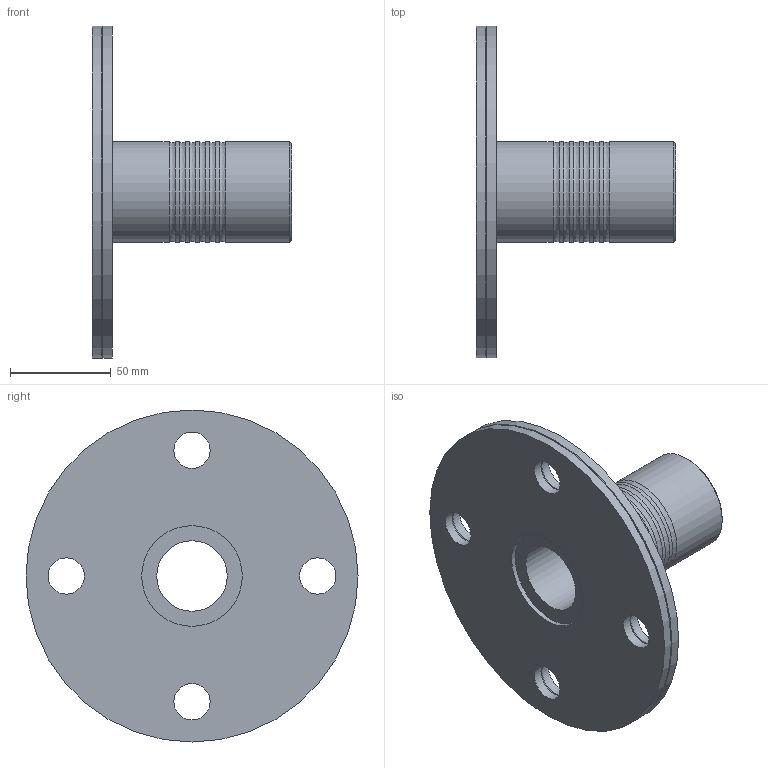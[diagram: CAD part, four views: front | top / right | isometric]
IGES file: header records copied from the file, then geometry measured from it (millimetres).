
Global section: file name: 0723060500200_182306050020_0723060500200A.ipt; native system: Autodesk Inventor 2015; preprocessor: unknown; author: KIM; date: 20170606.172341; units: millimetre
Bounding box: 99 x 165 x 165 mm (x, y, z)
Volume: 271023 mm3; surface area: 73221.4 mm2
Topology: 1 solids, 1 shells, 42 faces, 123 edges, 86 vertices
Faces by surface type: revolution 25, cylinder 9, plane 5, cone 3
Full cylindrical faces by diameter (mm): 50 x7, 165 x2
